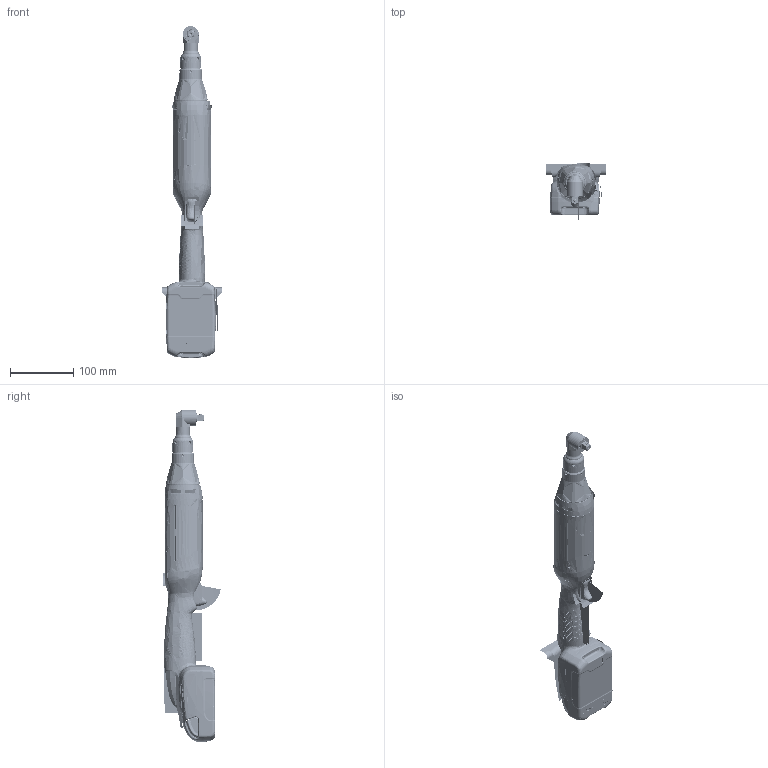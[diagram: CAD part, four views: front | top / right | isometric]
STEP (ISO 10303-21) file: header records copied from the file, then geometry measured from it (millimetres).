
FILE_DESCRIPTION((''),'2;1');
FILE_NAME('47519395001_ASM','2014-06-02T',('rryoung'),(''),'PRO/ENGINEER BY PARAMETRIC TECHNOLOGY CORPORATION, 2012450','PRO/ENGINEER BY PARAMETRIC TECHNOLOGY CORPORATION, 2012450','');
FILE_SCHEMA(('CONFIG_CONTROL_DESIGN'));
Products named in the file (47): 47151352_NX; 53420253_NX; 04376331_NX_ASM; 53445425_NX; 53424370_NX; 04377396M3_NX; 04377396M2_NX; 04377396M1_NX; 04377396_NX_ASM; 53443537_NX; 47151451_NX; 53431045M3_NX; 53431045M2_NX; 53431045M1_NX; 53431045_NX_ASM; 53443602_NX; 53453494_NX; 04364915_NX; 47151170_NX; 47151733_NX; 47151378_NX; 47152582M1; 47152582M2; 47152582M3; 47152582M4; 47152582M1_ASM; 04384038_NX; 47152582_ASM; 24224537; 24208795; 24208803; 47507311001_ASM; 47111786; 24272783; 24279325; 47086400; 24435927; 24272783_ASM; 24361370; 24586463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
Assembly tree (55 placements, depth 4):
  47519395001_ASM
    47152582_ASM
      47151352_NX
      53420253_NX
      04376331_NX_ASM
      53445425_NX
      53424370_NX
      04377396_NX_ASM
        04377396M3_NX
        04377396M2_NX
        04377396M1_NX  x10
      53443537_NX
      47151451_NX
      53431045_NX_ASM
        53431045M3_NX
        53431045M2_NX
        53431045M1_NX
      53443602_NX
      53453494_NX
      04364915_NX
      47151170_NX
      47151733_NX
      47151378_NX
      47152582M1_ASM
        47152582M1
        47152582M2
        47152582M3
        47152582M4
      04384038_NX
    24224537
    47507311001_ASM
      24208795
      24208803
    47111786
    24272783_ASM
      24272783
      24279325
      47086400
      24435927
    24361370
    24260093_ASM
      24586463
      45500642
    47118054_NX
    47118146_NX
    47118229_NX
    47118237_NX
Bounding box: 96 x 90.39 x 523 mm (x, y, z)
Volume: 383029.2 mm3; surface area: 952787.2 mm2
Topology: 47 solids, 338 shells, 15135 faces, 39587 edges, 24688 vertices
Faces by surface type: bspline 4812, plane 4716, cylinder 3312, torus 1052, cone 687, sphere 333, extrusion 207, revolution 16
Entity records: 791913 total; most frequent: CARTESIAN_POINT 467854, ORIENTED_EDGE 76214, DIRECTION 51851, EDGE_CURVE 39145, VERTEX_POINT 24676, AXIS2_PLACEMENT_3D 18860, B_SPLINE_CURVE_WITH_KNOTS 16842, EDGE_LOOP 15650
